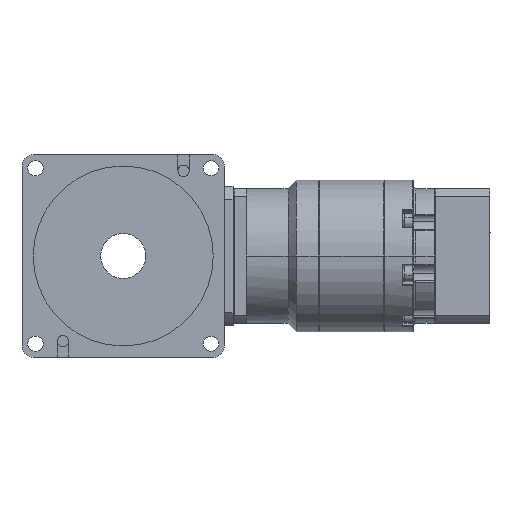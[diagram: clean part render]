
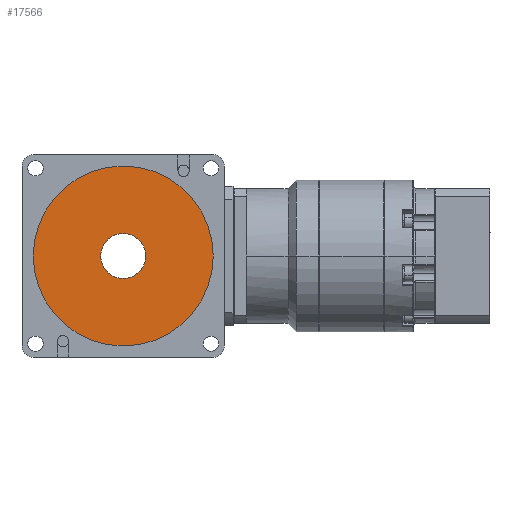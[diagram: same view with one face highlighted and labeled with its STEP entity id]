
A CAD part, left-side view. The second image highlights one B-rep face of the part: STEP entity #17566.
In plain terms, the highlighted planar face has unit normal (-1, 0, 0).
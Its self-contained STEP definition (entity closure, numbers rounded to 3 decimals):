
#839 = DIRECTION ( 'NONE',  ( -1., 0., 0. ) ) ;
#2106 = DIRECTION ( 'NONE',  ( 0., 0., 1. ) ) ;
#2512 = DIRECTION ( 'NONE',  ( -1., 0., 0. ) ) ;
#3058 = CARTESIAN_POINT ( 'NONE',  ( -31.5, 0., 40. ) ) ;
#4121 = EDGE_CURVE ( 'NONE', #42870, #23441, #7835, .T. ) ;
#5598 = CIRCLE ( 'NONE', #11398, 40. ) ;
#5809 = VERTEX_POINT ( 'NONE', #38946 ) ;
#7835 = CIRCLE ( 'NONE', #17986, 10. ) ;
#8990 = DIRECTION ( 'NONE',  ( -1., 0., 0. ) ) ;
#11398 = AXIS2_PLACEMENT_3D ( 'NONE', #30030, #8990, #19410 ) ;
#12572 = DIRECTION ( 'NONE',  ( -1., 0., 0. ) ) ;
#13144 = CARTESIAN_POINT ( 'NONE',  ( -31.5, 0., 0. ) ) ;
#13892 = EDGE_CURVE ( 'NONE', #18960, #5809, #28491, .T. ) ;
#16197 = AXIS2_PLACEMENT_3D ( 'NONE', #26125, #12572, #22958 ) ;
#16482 = CARTESIAN_POINT ( 'NONE',  ( -31.5, 0., 10. ) ) ;
#17566 = ADVANCED_FACE ( 'NONE', ( #39425, #29252 ), #28805, .T. ) ;
#17910 = EDGE_CURVE ( 'NONE', #5809, #18960, #5598, .T. ) ;
#17986 = AXIS2_PLACEMENT_3D ( 'NONE', #13144, #2512, #36429 ) ;
#18960 = VERTEX_POINT ( 'NONE', #3058 ) ;
#19410 = DIRECTION ( 'NONE',  ( 0., 0., 1. ) ) ;
#19421 = ORIENTED_EDGE ( 'NONE', *, *, #17910, .T. ) ;
#21632 = DIRECTION ( 'NONE',  ( 0., 0., 1. ) ) ;
#22958 = DIRECTION ( 'NONE',  ( 0., 0., 1. ) ) ;
#23441 = VERTEX_POINT ( 'NONE', #16482 ) ;
#25844 = DIRECTION ( 'NONE',  ( -1., 0., 0. ) ) ;
#26125 = CARTESIAN_POINT ( 'NONE',  ( -31.5, 0., 0. ) ) ;
#28491 = CIRCLE ( 'NONE', #40035, 40. ) ;
#28805 = PLANE ( 'NONE',  #43114 ) ;
#29252 = FACE_OUTER_BOUND ( 'NONE', #32160, .T. ) ;
#30030 = CARTESIAN_POINT ( 'NONE',  ( -31.5, 0., 0. ) ) ;
#31805 = CARTESIAN_POINT ( 'NONE',  ( -31.5, 0., 0. ) ) ;
#32160 = EDGE_LOOP ( 'NONE', ( #32186, #19421 ) ) ;
#32186 = ORIENTED_EDGE ( 'NONE', *, *, #13892, .T. ) ;
#32711 = CARTESIAN_POINT ( 'NONE',  ( -31.5, 0., -10. ) ) ;
#32781 = EDGE_CURVE ( 'NONE', #23441, #42870, #41475, .T. ) ;
#36429 = DIRECTION ( 'NONE',  ( 0., 0., 1. ) ) ;
#38946 = CARTESIAN_POINT ( 'NONE',  ( -31.5, 0., -40. ) ) ;
#39425 = FACE_BOUND ( 'NONE', #42224, .T. ) ;
#40035 = AXIS2_PLACEMENT_3D ( 'NONE', #31805, #839, #21632 ) ;
#41475 = CIRCLE ( 'NONE', #16197, 10. ) ;
#42224 = EDGE_LOOP ( 'NONE', ( #43803, #42748 ) ) ;
#42748 = ORIENTED_EDGE ( 'NONE', *, *, #32781, .F. ) ;
#42832 = CARTESIAN_POINT ( 'NONE',  ( -31.5, 0., 0. ) ) ;
#42870 = VERTEX_POINT ( 'NONE', #32711 ) ;
#43114 = AXIS2_PLACEMENT_3D ( 'NONE', #42832, #25844, #2106 ) ;
#43803 = ORIENTED_EDGE ( 'NONE', *, *, #4121, .F. ) ;
